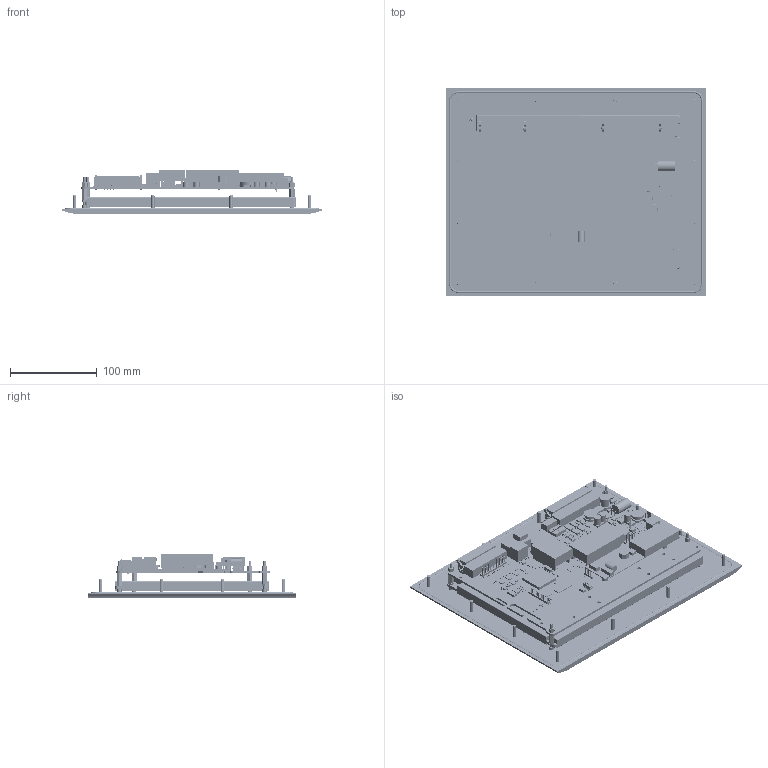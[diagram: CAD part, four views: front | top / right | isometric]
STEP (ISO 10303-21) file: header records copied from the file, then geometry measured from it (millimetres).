
FILE_DESCRIPTION(/* description */ ('Alibre Inc.'),/* implementation_level */ '2;1');
FILE_NAME(/* name */ 'export0',/* time_stamp */ '2011-06-30T18:30:18+02:00',/* author */ (''),/* organization */ (''),/* preprocessor_version */ 'ST-DEVELOPER v12',/* originating_system */ 'Alibre',/* authorisation */ '');
FILE_SCHEMA (('CONFIG_CONTROL_DESIGN'));
Products named in the file (857): ID_1; ID_2; ID_3; ID_4; ID_5; ID_6; ID_7; ID_8; ID_9; ID_10; ID_11; ID_12; ID_13; ID_14; ID_15; ID_16; ID_17; ID_18; ID_19; ID_20; ID_21; ID_22; ID_23; ID_24; ID_25; ID_26; ID_27; ID_28; ID_29; ID_30; ID_31; ID_32; ID_33; ID_34; ID_35; ID_36; ID_37; ID_38; ID_39; ID_40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
Bounding box: 300 x 240 x 50.03 mm (x, y, z)
Volume: 913909.1 mm3; surface area: 389625 mm2
Topology: 1711 solids, 1711 shells, 18214 faces, 42544 edges, 28081 vertices
Faces by surface type: plane 16021, cylinder 1743, cone 440, torus 8, sphere 2
Full cylindrical faces by diameter (mm): 0.787 x12, 0.8 x4, 0.813 x18, 0.914 x56, 0.991 x194, 1.2 x2, 1.321 x4, 1.372 x18, 1.397 x68, 1.5 x64, 1.524 x45, 1.6 x5, 1.651 x2, 1.778 x2, 2.311 x4, 2.5 x4, 2.8 x4, 3 x5, 3.302 x4, 3.4 x1, 3.5 x10, 4 x12, 4.2 x4, 4.68 x4, 7.37 x24, 8.2 x1, 12 x1, 19 x1
Entity records: 377752 total; most frequent: CARTESIAN_POINT 46939, DIRECTION 43266, ORIENTED_EDGE 41026, EDGE_CURVE 20512, VECTOR 16553, LINE 16553, AXIS2_PLACEMENT_3D 16312, VERTEX_POINT 13534
